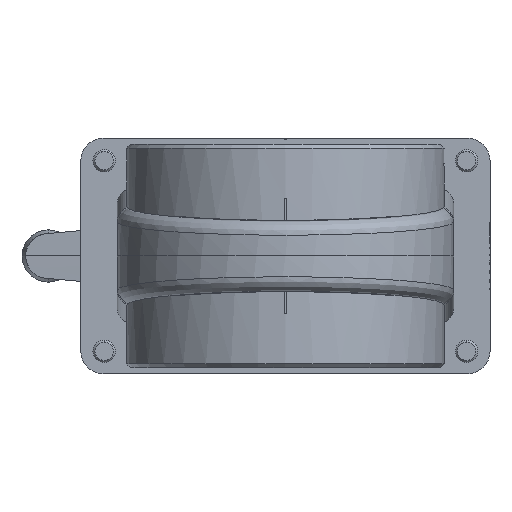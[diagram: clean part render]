
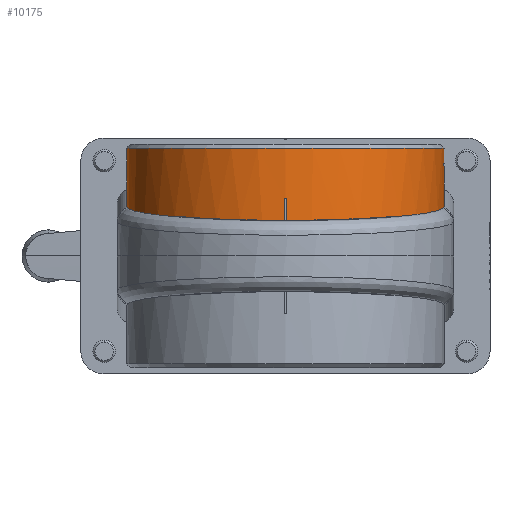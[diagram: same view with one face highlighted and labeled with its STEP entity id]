
A CAD part, front view. The second image highlights one B-rep face of the part: STEP entity #10175.
In plain terms, the highlighted cylindrical face has radius 42.5 mm (diameter 85 mm), a full revolution.
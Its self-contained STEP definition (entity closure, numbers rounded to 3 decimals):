
#4225=LINE('',#32818,#5699);
#4226=LINE('',#32822,#5700);
#5699=VECTOR('',#26389,1.);
#5700=VECTOR('',#26392,1.);
#7077=CIRCLE('',#23680,42.5);
#7078=CIRCLE('',#23682,42.5);
#7079=CIRCLE('',#23684,42.5);
#7080=CIRCLE('',#23687,42.5);
#10175=ADVANCED_FACE('',(#11445,#11446,#11447,#11448),#10996,.T.);
#10996=CYLINDRICAL_SURFACE('',#23688,42.5);
#11445=FACE_BOUND('',#12272,.T.);
#11446=FACE_BOUND('',#12273,.T.);
#11447=FACE_BOUND('',#12274,.T.);
#11448=FACE_BOUND('',#12275,.T.);
#12272=EDGE_LOOP('',(#14854,#14855,#14856));
#12273=EDGE_LOOP('',(#14857,#14858,#14859,#14860));
#12274=EDGE_LOOP('',(#14861));
#12275=EDGE_LOOP('',(#14862,#14863,#14864));
#14854=ORIENTED_EDGE('',*,*,#21230,.F.);
#14855=ORIENTED_EDGE('',*,*,#21231,.F.);
#14856=ORIENTED_EDGE('',*,*,#21232,.F.);
#14857=ORIENTED_EDGE('',*,*,#21233,.T.);
#14858=ORIENTED_EDGE('',*,*,#21234,.T.);
#14859=ORIENTED_EDGE('',*,*,#21235,.T.);
#14860=ORIENTED_EDGE('',*,*,#21236,.F.);
#14861=ORIENTED_EDGE('',*,*,#21237,.T.);
#14862=ORIENTED_EDGE('',*,*,#21238,.F.);
#14863=ORIENTED_EDGE('',*,*,#21239,.F.);
#14864=ORIENTED_EDGE('',*,*,#21240,.F.);
#19132=VERTEX_POINT('',#32810);
#19133=VERTEX_POINT('',#32811);
#19134=VERTEX_POINT('',#32813);
#19135=VERTEX_POINT('',#32816);
#19136=VERTEX_POINT('',#32817);
#19137=VERTEX_POINT('',#32819);
#19138=VERTEX_POINT('',#32821);
#19139=VERTEX_POINT('',#32824);
#19140=VERTEX_POINT('',#32826);
#19141=VERTEX_POINT('',#32827);
#19142=VERTEX_POINT('',#32829);
#21230=EDGE_CURVE('',#19132,#19133,#23087,.T.);
#21231=EDGE_CURVE('',#19134,#19132,#7077,.T.);
#21232=EDGE_CURVE('',#19133,#19134,#23088,.T.);
#21233=EDGE_CURVE('',#19135,#19136,#7078,.T.);
#21234=EDGE_CURVE('',#19136,#19137,#4225,.T.);
#21235=EDGE_CURVE('',#19137,#19138,#23089,.T.);
#21236=EDGE_CURVE('',#19135,#19138,#4226,.T.);
#21237=EDGE_CURVE('',#19139,#19139,#7079,.T.);
#21238=EDGE_CURVE('',#19140,#19141,#23090,.T.);
#21239=EDGE_CURVE('',#19142,#19140,#23091,.T.);
#21240=EDGE_CURVE('',#19141,#19142,#7080,.T.);
#23087=ELLIPSE('',#23679,85.,42.5);
#23088=ELLIPSE('',#23681,85.,42.5);
#23089=ELLIPSE('',#23683,42.662,42.5);
#23090=ELLIPSE('',#23685,85.,42.5);
#23091=ELLIPSE('',#23686,85.,42.5);
#23679=AXIS2_PLACEMENT_3D('',#32809,#26381,#26382);
#23680=AXIS2_PLACEMENT_3D('',#32812,#26383,#26384);
#23681=AXIS2_PLACEMENT_3D('',#32814,#26385,#26386);
#23682=AXIS2_PLACEMENT_3D('',#32815,#26387,#26388);
#23683=AXIS2_PLACEMENT_3D('',#32820,#26390,#26391);
#23684=AXIS2_PLACEMENT_3D('',#32823,#26393,#26394);
#23685=AXIS2_PLACEMENT_3D('',#32825,#26395,#26396);
#23686=AXIS2_PLACEMENT_3D('',#32828,#26397,#26398);
#23687=AXIS2_PLACEMENT_3D('',#32830,#26399,#26400);
#23688=AXIS2_PLACEMENT_3D('',#32831,#26401,#26402);
#26381=DIRECTION('',(0.,0.866,0.5));
#26382=DIRECTION('',(0.,0.5,-0.866));
#26383=DIRECTION('',(0.,0.,-1.));
#26384=DIRECTION('',(0.,1.,0.));
#26385=DIRECTION('',(0.,-0.866,0.5));
#26386=DIRECTION('',(0.,-0.5,-0.866));
#26387=DIRECTION('',(0.,0.,1.));
#26388=DIRECTION('',(-1.,0.,0.));
#26389=DIRECTION('',(0.,0.,-1.));
#26390=DIRECTION('',(0.,-0.087,0.996));
#26391=DIRECTION('',(0.,-0.996,-0.087));
#26392=DIRECTION('',(0.,0.,-1.));
#26393=DIRECTION('',(0.,0.,-1.));
#26394=DIRECTION('',(-1.,0.,0.));
#26395=DIRECTION('',(0.,0.866,0.5));
#26396=DIRECTION('',(0.,0.5,-0.866));
#26397=DIRECTION('',(0.,-0.866,0.5));
#26398=DIRECTION('',(0.,-0.5,-0.866));
#26399=DIRECTION('',(0.,0.,-1.));
#26400=DIRECTION('',(0.,1.,0.));
#26401=DIRECTION('',(0.,0.,-1.));
#26402=DIRECTION('',(-1.,0.,0.));
#32809=CARTESIAN_POINT('',(0.,0.,20.35));
#32810=CARTESIAN_POINT('',(42.421,-2.598,24.85));
#32811=CARTESIAN_POINT('',(42.5,0.,20.35));
#32812=CARTESIAN_POINT('',(0.,0.,24.85));
#32813=CARTESIAN_POINT('',(42.421,2.598,24.85));
#32814=CARTESIAN_POINT('',(0.,0.,20.35));
#32815=CARTESIAN_POINT('',(0.,0.,15.482));
#32816=CARTESIAN_POINT('',(-0.25,-42.499,15.482));
#32817=CARTESIAN_POINT('',(0.25,-42.499,15.482));
#32818=CARTESIAN_POINT('',(0.25,-42.499,9.482));
#32819=CARTESIAN_POINT('',(0.25,-42.499,9.482));
#32820=CARTESIAN_POINT('',(0.,0.,13.2));
#32821=CARTESIAN_POINT('',(-0.25,-42.499,9.482));
#32822=CARTESIAN_POINT('',(-0.25,-42.499,9.482));
#32823=CARTESIAN_POINT('',(0.,0.,28.85));
#32824=CARTESIAN_POINT('',(-42.5,0.,28.85));
#32825=CARTESIAN_POINT('',(0.,0.,20.35));
#32826=CARTESIAN_POINT('',(-42.5,0.,20.35));
#32827=CARTESIAN_POINT('',(-42.421,-2.598,24.85));
#32828=CARTESIAN_POINT('',(0.,0.,20.35));
#32829=CARTESIAN_POINT('',(-42.421,2.598,24.85));
#32830=CARTESIAN_POINT('',(0.,0.,24.85));
#32831=CARTESIAN_POINT('',(0.,0.,9.482));
